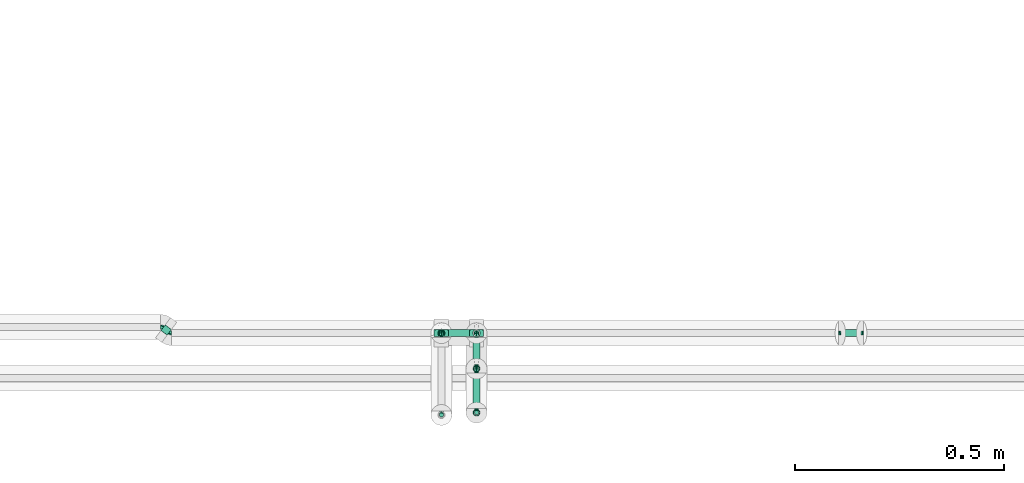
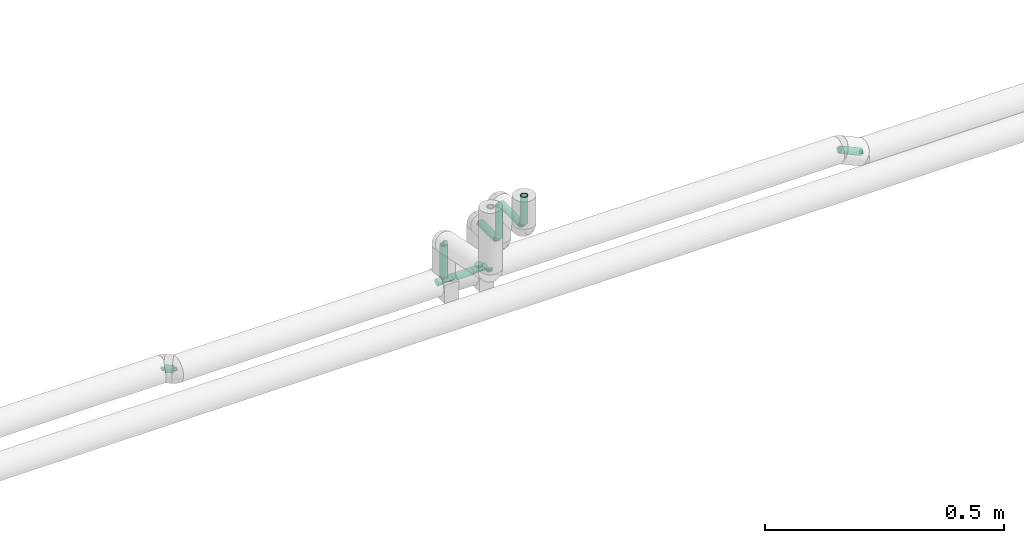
# One storey, part 101 of 156: 12 flow fittings, 8 flow segments.
"""IFC2X3 building model written with IfcOpenShell, lengths in millimetres."""

from ifc_helpers import new_model, entity, si_unit, converted_unit, derived_unit, direction, frame, origin_with_axes, origin_2d_with_axis, place, context, subcontext, project, spatial, hollow_circle, extrude, open_shell, surface_model, source, transform, mapped, type_object, element, save


model = new_model("IFC2X3")

# Units and contexts
model_context = context("Model", 3, precision=0.01, world=frame((0.0, 4.29681676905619e-09, 0.0)), true_north=direction((4.01073788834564e-13, 1.0)))
plan_context = context("Plan", 3, precision=0.01, world=frame((0.0, 4.29681676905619e-09, 0.0)), true_north=direction((4.01073788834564e-13, 1.0)))
body_context = subcontext(model_context, "Body", "Model", "MODEL_VIEW")
ifc_project = project(units=[converted_unit("PLANEANGLEUNIT", "DEGREE", entity("IfcPositiveLengthMeasure", 0.0174532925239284), si_unit("PLANEANGLEUNIT", "RADIAN"), dimensions=[0, 0, 0, 0, 0, 0, 0]), si_unit("AREAUNIT", "SQUARE_METRE"), si_unit("LENGTHUNIT", "METRE", prefix="MILLI"), si_unit("MASSUNIT", "GRAM", prefix="KILO"), si_unit("POWERUNIT", "WATT"), si_unit("PRESSUREUNIT", "PASCAL", prefix="KILO"), si_unit("FORCEUNIT", "NEWTON", prefix="KILO"), si_unit("ELECTRICVOLTAGEUNIT", "VOLT"), si_unit("ELECTRICCURRENTUNIT", "AMPERE"), si_unit("THERMODYNAMICTEMPERATUREUNIT", "DEGREE_CELSIUS"), si_unit("TIMEUNIT", "SECOND"), si_unit("VOLUMEUNIT", "CUBIC_METRE"), derived_unit("LINEARVELOCITYUNIT", [(si_unit("LENGTHUNIT", "METRE"), 1), (si_unit("TIMEUNIT", "SECOND"), -1)]), derived_unit("VOLUMETRICFLOWRATEUNIT", [(si_unit("VOLUMEUNIT", "CUBIC_METRE"), 1), (si_unit("TIMEUNIT", "SECOND"), -1)]), derived_unit("THERMALTRANSMITTANCEUNIT", [(si_unit("POWERUNIT", "WATT"), 1), (si_unit("THERMODYNAMICTEMPERATUREUNIT", "KELVIN"), -1), (si_unit("AREAUNIT", "SQUARE_METRE"), -1)]), derived_unit("SOUNDPRESSUREUNIT", [(si_unit("PRESSUREUNIT", "PASCAL"), 1)])], contexts=[model_context, plan_context])

# Site, building, storey
site_placement = place(None, frame((0.0, -4.29681676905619e-09, 0.0), z_axis=(0.0, 0.0, 1.0), x_axis=(1.0, 0.0, 0.0)))
site = spatial("IfcSite", under=ifc_project, at=site_placement, CompositionType="ELEMENT")
building_placement = place(site_placement, frame((0.0, 4.29681676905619e-09, 0.0), z_axis=(0.0, 0.0, 1.0), x_axis=(1.0, 0.0, 0.0)))
building = spatial("IfcBuilding", under=site, at=building_placement, Name="mc-building", CompositionType="ELEMENT")
storey_placement = place(building_placement, frame((0.0, 0.0, 205200.0), z_axis=(0.0, 0.0, 1.0), x_axis=(1.0, 0.0, 0.0)))
storey = spatial("IfcBuildingStorey", under=building, at=storey_placement, Name="Nivå D + 1,2 m", CompositionType="ELEMENT", Elevation=205200.0)

# Flow fittings
pipe_fitting_type_1 = type_object("IfcPipeFittingType", Name="magi_pipe_elbow_short_001", PredefinedType="BEND")
shared_shape_1 = source(origin_with_axes(), body_context, "Body", "SurfaceModel", [
    surface_model("IfcShellBasedSurfaceModel", [(-10.0, 0.0, -5.0), (-10.0, -3.53553, -3.53553), (-10.0, 1.2941, -4.82963), (-10.0, 2.5, -4.33013), (-10.0, 3.53553, -3.53553), (-10.0, 4.82963, -1.2941), (-10.0, 4.33013, -2.5), (-10.0, -5.0, 0.0), (-10.0, 4.33013, 2.5), (-10.0, -2.5, -4.33013), (-10.0, -1.2941, -4.82963), (-10.0, -4.82963, -1.2941), (-10.0, -4.33013, -2.5), (-10.0, 5.0, 0.0), (-10.0, 4.82963, 1.2941), (-10.0, -3.53553, 3.53553), (-10.0, 1.2941, 4.82963), (-10.0, 2.5, 4.33013), (-10.0, 3.53553, 3.53553), (-10.0, -1.2941, 4.82963), (-10.0, -4.82963, 1.2941), (-10.0, -4.33013, 2.5), (-10.0, -2.5, 4.33013), (-10.0, 0.0, 5.0), (-1.2941, 10.0, -4.82963), (3.53553, 10.0, -3.53553), (0.0, 10.0, -5.0), (-3.53553, 10.0, -3.53553), (-2.5, 10.0, -4.33013), (-4.33013, 10.0, -2.5), (-4.82963, 10.0, -1.2941), (5.0, 10.0, 0.0), (-4.33013, 10.0, 2.5), (1.2941, 10.0, -4.82963), (2.5, 10.0, -4.33013), (4.33013, 10.0, -2.5), (4.82963, 10.0, -1.2941), (-5.0, 10.0, 0.0), (-4.82963, 10.0, 1.2941), (3.53553, 10.0, 3.53553), (-2.5, 10.0, 4.33013), (-1.2941, 10.0, 4.82963), (-3.53553, 10.0, 3.53553), (4.33013, 10.0, 2.5), (4.82963, 10.0, 1.2941), (1.2941, 10.0, 4.82963), (2.5, 10.0, 4.33013), (0.0, 10.0, 5.0), (-5.49842, -3.13538, 0.0), (3.13538, 5.49842, 0.0), (0.6066, -0.6066, 0.0), (-1.45852, 1.45852, 4.54706), (-4.39636, 4.39636, 4.54899), (-6.46447, 6.46447, 0.0), (-4.39636, 4.39636, -4.54899), (-1.45852, 1.45852, -4.54706)], [open_shell([[[0, 1, 2]], [[3, 2, 4]], [[5, 6, 4]], [[4, 2, 7]], [[4, 7, 8]], [[9, 1, 10]], [[1, 0, 10]], [[11, 7, 12]], [[1, 12, 7]], [[1, 7, 2]], [[13, 5, 4]], [[8, 14, 13]], [[15, 8, 7]], [[8, 16, 17]], [[18, 8, 17]], [[16, 8, 19]], [[20, 21, 7]], [[7, 21, 15]], [[22, 19, 15]], [[19, 8, 15]], [[16, 19, 23]], [[8, 13, 4]], [[24, 25, 26]], [[27, 24, 28]], [[27, 29, 30]], [[31, 24, 27]], [[32, 31, 27]], [[33, 25, 34]], [[33, 26, 25]], [[35, 31, 36]], [[31, 35, 25]], [[24, 31, 25]], [[27, 30, 37]], [[37, 38, 32]], [[31, 32, 39]], [[40, 41, 32]], [[40, 32, 42]], [[39, 32, 41]], [[31, 43, 44]], [[39, 43, 31]], [[39, 45, 46]], [[39, 41, 45]], [[47, 45, 41]], [[27, 37, 32]], [[20, 7, 48]], [[21, 20, 48]], [[15, 21, 48]], [[43, 49, 44]], [[50, 49, 51]], [[22, 15, 51]], [[16, 52, 17]], [[16, 23, 51]], [[19, 51, 23]], [[22, 51, 19]], [[48, 51, 15]], [[41, 52, 51]], [[18, 52, 8]], [[52, 18, 17]], [[14, 8, 53]], [[53, 13, 14]], [[8, 52, 53]], [[16, 51, 52]], [[51, 48, 50]], [[46, 45, 51]], [[51, 39, 46]], [[51, 47, 41]], [[31, 44, 49]], [[51, 49, 39]], [[39, 49, 43]], [[32, 38, 53]], [[37, 53, 38]], [[40, 42, 52]], [[32, 52, 42]], [[32, 53, 52]], [[40, 52, 41]], [[47, 51, 45]], [[2, 3, 54]], [[2, 55, 0]], [[53, 6, 5]], [[24, 54, 28]], [[4, 6, 54]], [[34, 55, 33]], [[54, 6, 53]], [[4, 54, 3]], [[48, 7, 11]], [[12, 1, 48]], [[10, 55, 9]], [[48, 1, 55]], [[1, 9, 55]], [[10, 0, 55]], [[5, 13, 53]], [[53, 37, 30]], [[2, 54, 55]], [[53, 30, 29]], [[54, 29, 27]], [[36, 31, 49]], [[54, 24, 55]], [[12, 48, 11]], [[50, 48, 55]], [[54, 27, 28]], [[26, 55, 24]], [[55, 34, 25]], [[55, 25, 49]], [[35, 36, 49]], [[55, 49, 50]], [[49, 25, 35]], [[33, 55, 26]], [[54, 53, 29]]])]),
])
for number, where, z_axis, x_axis, name in (
    (1, (337009.60356, 459036.28638, 4351.22044), (1.0, 0.0, 0.0), (0.0, 0.0, 1.0), "magi_pipe_elbow_short_001"),
    (2, (337009.60356, 458951.28638, 4351.22044), (-1.0, 0.0, 0.0), (0.0, -1.0, 0.0), "magi_pipe_elbow_short_001"),
    (3, (337009.60356, 458951.28638, 4451.22044), (1.0, 0.0, 0.0), (0.0, 0.0, 1.0), "magi_pipe_elbow_short_001"),
    (4, (337009.60356, 458846.28638, 4451.22044), (-1.0, 0.0, 0.0), (0.0, -1.0, 0.0), "magi_pipe_elbow_short_001"),
):
    element("IfcFlowFitting", number, at=place(storey_placement, frame(where, z_axis=z_axis, x_axis=x_axis)), inside=storey, type_object=pipe_fitting_type_1, Name=name, context=body_context, shape_type="MappedRepresentation", body=[
        mapped(shared_shape_1, transform((0.0, 0.0, 0.0), scale=1.0)),
    ])
shared_shape_2 = source(origin_with_axes(), body_context, "Body", "SurfaceModel", [
    surface_model("IfcShellBasedSurfaceModel", [(-3.33333, 0.0, -5.0), (-3.33333, -3.53553, -3.53553), (-3.33333, 1.2941, -4.82963), (-3.33333, 2.5, -4.33013), (-3.33333, 3.53553, -3.53553), (-3.33333, 4.82963, -1.2941), (-3.33333, 4.33013, -2.5), (-3.33333, -5.0, 0.0), (-3.33333, 4.33013, 2.5), (-3.33333, -2.5, -4.33013), (-3.33333, -1.2941, -4.82963), (-3.33333, -4.82963, -1.2941), (-3.33333, -4.33013, -2.5), (-3.33333, 5.0, 0.0), (-3.33333, 4.82963, 1.2941), (-3.33333, 1.2941, 4.82963), (-3.33333, 2.5, 4.33013), (-3.33333, 3.53553, 3.53553), (-3.33333, -3.53553, 3.53553), (-3.33333, -4.82963, 1.2941), (-3.33333, -4.33013, 2.5), (-3.33333, -2.5, 4.33013), (-3.33333, -1.2941, 4.82963), (-3.33333, 0.0, 5.0), (1.89021, 3.03528, -4.82963), (4.16667, 0.0, -4.33013), (2.66667, 2.0, -5.0), (0.54535, 4.82843, -3.53553), (1.16667, 4.0, -4.33013), (-0.33333, 6.0, 0.0), (0.06859, 5.4641, -2.5), (5.56444, -1.8637, 1.2941), (5.66667, -2.0, 0.0), (4.78799, -0.82843, -3.53553), (3.44312, 0.96472, -4.82963), (5.26474, -1.4641, -2.5), (5.56444, -1.8637, -1.2941), (-0.23111, 5.8637, -1.2941), (-0.23111, 5.8637, 1.2941), (0.06859, 5.4641, 2.5), (1.16667, 4.0, 4.33013), (0.54535, 4.82843, 3.53553), (1.89021, 3.03528, 4.82963), (4.78799, -0.82843, 3.53553), (5.26474, -1.4641, 2.5), (4.16667, 0.0, 4.33013), (3.44312, 0.96472, 4.82963), (2.66667, 2.0, 5.0), (1.41008, -4.23025, 0.0), (-1.32016, -4.67331, 0.0), (-1.75219, 5.25658, 0.0), (3.86012, -2.94655, 0.0)], [open_shell([[[0, 1, 2]], [[3, 2, 4]], [[5, 6, 4]], [[4, 2, 7]], [[4, 7, 8]], [[9, 1, 10]], [[1, 0, 10]], [[11, 7, 12]], [[1, 12, 7]], [[1, 7, 2]], [[13, 5, 4]], [[8, 14, 13]], [[7, 15, 8]], [[8, 15, 16]], [[17, 8, 16]], [[18, 15, 7]], [[19, 20, 7]], [[7, 20, 18]], [[21, 22, 18]], [[22, 15, 18]], [[15, 22, 23]], [[8, 13, 4]], [[24, 25, 26]], [[27, 24, 28]], [[29, 27, 30]], [[31, 32, 24]], [[27, 31, 24]], [[25, 32, 33]], [[25, 34, 26]], [[35, 32, 36]], [[32, 35, 33]], [[24, 32, 25]], [[29, 30, 37]], [[29, 38, 39]], [[27, 39, 31]], [[31, 39, 40]], [[40, 39, 41]], [[31, 40, 42]], [[31, 43, 44]], [[43, 31, 45]], [[42, 46, 45]], [[45, 31, 42]], [[47, 46, 42]], [[39, 27, 29]], [[21, 18, 48]], [[20, 49, 18]], [[46, 22, 21]], [[42, 15, 23]], [[23, 22, 47]], [[19, 49, 20]], [[41, 17, 16]], [[39, 8, 17]], [[14, 8, 50]], [[50, 13, 14]], [[50, 8, 39]], [[42, 16, 15]], [[19, 7, 49]], [[48, 18, 49]], [[45, 46, 21]], [[45, 48, 43]], [[46, 47, 22]], [[51, 44, 43]], [[48, 51, 43]], [[31, 51, 32]], [[39, 38, 50]], [[29, 50, 38]], [[44, 51, 31]], [[42, 23, 47]], [[17, 41, 39]], [[41, 16, 40]], [[40, 16, 42]], [[21, 48, 45]], [[12, 49, 11]], [[24, 0, 2]], [[26, 10, 0]], [[30, 4, 6]], [[4, 27, 3]], [[5, 50, 6]], [[24, 2, 3]], [[49, 7, 11]], [[12, 1, 49]], [[48, 9, 25]], [[48, 49, 1]], [[48, 1, 9]], [[34, 9, 10]], [[5, 13, 50]], [[50, 29, 37]], [[50, 37, 30]], [[28, 3, 27]], [[3, 28, 24]], [[30, 27, 4]], [[24, 26, 0]], [[34, 25, 9]], [[36, 32, 51]], [[25, 33, 48]], [[35, 36, 51]], [[48, 33, 51]], [[51, 33, 35]], [[26, 34, 10]], [[30, 6, 50]]])]),
])
for number, where, z_axis, x_axis, name in (
    (5, (336277.5, 459036.28638, 4228.32044000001), (0.0, 0.0, 1.0), (0.8, -0.6, 0.0), "magi_pipe_elbow_short_001"),
    (6, (336257.5, 459051.28638, 4228.32044000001), (0.0, 0.0, 1.0), (-0.8, 0.6, 0.0), "magi_pipe_elbow_short_001"),
):
    element("IfcFlowFitting", number, at=place(storey_placement, frame(where, z_axis=z_axis, x_axis=x_axis)), inside=storey, type_object=pipe_fitting_type_1, Name=name, context=body_context, shape_type="MappedRepresentation", body=[
        mapped(shared_shape_2, transform((0.0, 0.0, 0.0), scale=1.0)),
    ])
shared_shape_3 = source(origin_with_axes(), body_context, "Body", "SurfaceModel", [
    surface_model("IfcShellBasedSurfaceModel", [(-2.16609, 0.0, -5.0), (-2.16609, -3.53553, -3.53553), (-2.16609, 1.2941, -4.82963), (-2.16609, 2.5, -4.33013), (-2.16609, 3.53553, -3.53553), (-2.16609, 4.82963, -1.2941), (-2.16609, 4.33013, -2.5), (-2.16609, -5.0, 0.0), (-2.16609, 4.33013, 2.5), (-2.16609, -2.5, -4.33013), (-2.16609, -1.2941, -4.82963), (-2.16609, -4.82963, -1.2941), (-2.16609, -4.33013, -2.5), (-2.16609, 5.0, 0.0), (-2.16609, 4.82963, 1.2941), (-2.16609, 1.2941, 4.82963), (-2.16609, 2.5, 4.33013), (-2.16609, 3.53553, 3.53553), (-2.16609, -3.53553, 3.53553), (-2.16609, -4.82963, 1.2941), (-2.16609, -4.33013, 2.5), (-2.16609, -2.5, 4.33013), (-2.16609, -1.2941, 4.82963), (-2.16609, 0.0, 5.0), (1.97194, 0.89634, -5.0), (3.97045, -3.5004, 1.2941), (3.43495, -2.3223, -3.53553), (0.50892, 4.11497, -3.53553), (1.43644, 2.07444, -4.82963), (0.93743, 3.17225, -4.33013), (0.18012, 4.83834, -2.5), (-0.02658, 5.29307, -1.2941), (3.43495, -2.3223, 3.53553), (2.50744, -0.28177, -4.82963), (3.00644, -1.37958, -4.33013), (3.76376, -3.04567, -2.5), (4.04095, -3.6555, 0.0), (3.97045, -3.5004, -1.2941), (-0.09708, 5.44817, 0.0), (-0.02658, 5.29307, 1.2941), (0.18012, 4.83834, 2.5), (0.93743, 3.17225, 4.33013), (1.43644, 2.07444, 4.82963), (0.50892, 4.11497, 3.53553), (3.76376, -3.04567, 2.5), (2.50744, -0.28177, 4.82963), (3.00644, -1.37958, 4.33013), (1.97194, 0.89634, 5.0), (1.0094, -4.66002, 0.0), (-0.81837, -4.85571, 0.0), (-1.10759, 5.11333, 0.0), (2.75432, -4.08183, 0.0)], [open_shell([[[0, 1, 2]], [[3, 2, 4]], [[5, 6, 4]], [[4, 2, 7]], [[4, 7, 8]], [[9, 1, 10]], [[1, 0, 10]], [[11, 7, 12]], [[1, 12, 7]], [[1, 7, 2]], [[13, 5, 4]], [[8, 14, 13]], [[7, 15, 8]], [[8, 15, 16]], [[17, 8, 16]], [[18, 15, 7]], [[19, 20, 7]], [[7, 20, 18]], [[21, 22, 18]], [[22, 15, 18]], [[15, 22, 23]], [[8, 13, 4]], [[24, 25, 26]], [[27, 28, 29]], [[27, 30, 31]], [[28, 27, 32]], [[24, 28, 25]], [[33, 26, 34]], [[33, 24, 26]], [[35, 36, 37]], [[36, 35, 26]], [[26, 25, 36]], [[32, 27, 31]], [[38, 39, 40]], [[40, 32, 31]], [[41, 42, 40]], [[41, 40, 43]], [[32, 40, 42]], [[25, 32, 44]], [[28, 32, 25]], [[32, 45, 46]], [[32, 42, 45]], [[47, 45, 42]], [[40, 31, 38]], [[21, 18, 48]], [[18, 20, 49]], [[45, 22, 21]], [[23, 42, 15]], [[23, 22, 47]], [[19, 49, 20]], [[43, 17, 16]], [[40, 8, 17]], [[14, 8, 50]], [[50, 13, 14]], [[50, 8, 40]], [[42, 16, 15]], [[19, 7, 49]], [[48, 18, 49]], [[46, 45, 21]], [[46, 48, 32]], [[45, 47, 22]], [[51, 44, 32]], [[48, 51, 32]], [[25, 51, 36]], [[40, 39, 50]], [[38, 50, 39]], [[44, 51, 25]], [[42, 23, 47]], [[40, 17, 43]], [[43, 16, 41]], [[42, 41, 16]], [[21, 48, 46]], [[12, 49, 11]], [[28, 0, 2]], [[24, 10, 0]], [[30, 4, 6]], [[4, 27, 3]], [[5, 50, 6]], [[28, 2, 3]], [[49, 7, 11]], [[12, 1, 49]], [[48, 9, 34]], [[48, 49, 1]], [[48, 1, 9]], [[33, 9, 10]], [[5, 13, 50]], [[50, 38, 31]], [[50, 31, 30]], [[29, 3, 27]], [[3, 29, 28]], [[37, 36, 51]], [[30, 27, 4]], [[28, 24, 0]], [[26, 48, 34]], [[9, 33, 34]], [[35, 37, 51]], [[48, 26, 51]], [[51, 26, 35]], [[10, 24, 33]], [[30, 6, 50]]])]),
])
for number, where, z_axis, x_axis, name in (
    (7, (337932.5, 459036.28638, 4203.32044000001), (0.0, 1.0, 0.0), (-1.0, 0.0, 0.0), "magi_pipe_elbow_short_001"),
    (8, (337877.5, 459036.28638, 4228.32044000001), (0.0, 1.0, 0.0), (1.0, 0.0, 0.0), "magi_pipe_elbow_short_001"),
):
    element("IfcFlowFitting", number, at=place(storey_placement, frame(where, z_axis=z_axis, x_axis=x_axis)), inside=storey, type_object=pipe_fitting_type_1, Name=name, context=body_context, shape_type="MappedRepresentation", body=[
        mapped(shared_shape_3, transform((0.0, 0.0, 0.0), scale=1.0)),
    ])
pipe_fitting_type_2 = type_object("IfcPipeFittingType", Name="magi_pipe_fe_tee_centric_90_001", PredefinedType="JUNCTION")
shared_shape_4 = source(origin_with_axes(), body_context, "Body", "SurfaceModel", [
    surface_model("IfcShellBasedSurfaceModel", [(-17.2, 0.0, -8.6), (-17.2, -8.6, 0.0), (-17.2, 2.22584, -8.30696), (-17.2, 4.3, -7.44782), (-17.2, 7.44782, -4.3), (-17.2, 8.30696, 2.22584), (-17.2, 6.08112, -6.08112), (-17.2, 8.6, 0.0), (-17.2, -6.08112, -6.08112), (-17.2, -7.44782, -4.3), (-17.2, -4.3, -7.44782), (-17.2, -2.22584, -8.30696), (-17.2, -8.30696, -2.22584), (-17.2, 8.30696, -2.22584), (-17.2, 4.3, 7.44782), (-17.2, 7.44782, 4.3), (-17.2, -4.3, 7.44782), (-17.2, 6.08112, 6.08112), (-17.2, 0.0, 8.6), (-17.2, 2.22584, 8.30696), (-17.2, -7.44782, 4.3), (-17.2, -6.08112, 6.08112), (-17.2, -8.30696, 2.22584), (-17.2, -2.22584, 8.30696), (17.2, 2.22584, -8.30696), (17.2, -4.3, -7.44782), (17.2, 0.0, -8.6), (17.2, 7.44782, -4.3), (17.2, 4.3, -7.44782), (17.2, -8.30696, 2.22584), (17.2, -8.6, 0.0), (17.2, 6.08112, -6.08112), (17.2, -7.44782, -4.3), (17.2, -6.08112, -6.08112), (17.2, -2.22584, -8.30696), (17.2, -8.30696, -2.22584), (17.2, 8.30696, -2.22584), (17.2, 8.6, 0.0), (17.2, 2.22584, 8.30696), (17.2, 8.30696, 2.22584), (17.2, 7.44782, 4.3), (17.2, 4.3, 7.44782), (17.2, 6.08112, 6.08112), (17.2, 0.0, 8.6), (17.2, -7.44782, 4.3), (17.2, -4.3, 7.44782), (17.2, -6.08112, 6.08112), (17.2, -2.22584, 8.30696), (8.6, -8.6, 0.0), (8.28805, -8.28805, 2.29527), (7.44335, -7.44335, 4.30773), (6.24056, -6.24056, 5.91738), (4.82014, -4.82014, 7.12224), (-8.6, -8.6, 0.0), (-8.28805, -8.28805, 2.29527), (-7.44335, -7.44335, 4.30773), (-6.24056, -6.24056, 5.91738), (-4.82014, -4.82014, 7.12224), (3.27153, -3.27153, 7.95343), (1.65141, -1.65141, 8.43995), (0.0, 0.0, 8.6), (-3.27153, -3.27153, 7.95343), (-1.65141, -1.65141, 8.43995), (0.0, 0.0, -8.6), (3.27153, -3.27153, -7.95343), (1.65141, -1.65141, -8.43995), (4.82014, -4.82014, -7.12224), (-1.65141, -1.65141, -8.43995), (-3.27153, -3.27153, -7.95343), (-4.82014, -4.82014, -7.12224), (6.24056, -6.24056, -5.91738), (7.44335, -7.44335, -4.30773), (8.28805, -8.28805, -2.29527), (-6.24056, -6.24056, -5.91738), (-7.44335, -7.44335, -4.30773), (-8.28805, -8.28805, -2.29527), (0.0, -12.9, -8.6), (2.22584, -12.9, -8.30696), (4.3, -12.9, -7.44782), (6.08112, -12.9, -6.08112), (7.44782, -12.9, -4.3), (8.30696, -12.9, -2.22584), (-6.08112, -12.9, -6.08112), (-8.30696, -12.9, 2.22584), (-2.22584, -12.9, -8.30696), (-4.3, -12.9, -7.44782), (-8.30696, -12.9, -2.22584), (-7.44782, -12.9, -4.3), (-8.6, -12.9, 0.0), (8.30696, -12.9, 2.22584), (2.22584, -12.9, 8.30696), (7.44782, -12.9, 4.3), (4.3, -12.9, 7.44782), (6.08112, -12.9, 6.08112), (0.0, -12.9, 8.6), (-6.08112, -12.9, 6.08112), (-7.44782, -12.9, 4.3), (-4.3, -12.9, 7.44782), (-2.22584, -12.9, 8.30696), (8.6, -12.9, 0.0)], [open_shell([[[0, 1, 2]], [[3, 2, 4]], [[2, 1, 5]], [[6, 3, 4]], [[2, 7, 4]], [[8, 9, 10]], [[11, 10, 9]], [[12, 1, 9]], [[0, 11, 9]], [[9, 1, 0]], [[7, 13, 4]], [[14, 5, 1]], [[15, 5, 14]], [[1, 16, 14]], [[17, 15, 14]], [[14, 18, 19]], [[1, 20, 21]], [[20, 1, 22]], [[16, 23, 14]], [[21, 16, 1]], [[18, 14, 23]], [[7, 2, 5]], [[24, 25, 26]], [[27, 24, 28]], [[29, 30, 24]], [[27, 28, 31]], [[27, 29, 24]], [[25, 32, 33]], [[25, 34, 26]], [[32, 30, 35]], [[32, 25, 24]], [[30, 32, 24]], [[27, 36, 37]], [[38, 37, 39]], [[38, 39, 40]], [[41, 38, 40]], [[41, 40, 42]], [[37, 38, 43]], [[44, 45, 46]], [[44, 29, 37]], [[45, 43, 47]], [[45, 44, 37]], [[43, 45, 37]], [[37, 29, 27]], [[30, 29, 48]], [[29, 49, 48]], [[49, 29, 44]], [[49, 44, 50]], [[46, 45, 51]], [[51, 50, 46]], [[52, 51, 45]], [[46, 50, 44]], [[53, 54, 22]], [[53, 22, 1]], [[22, 54, 20]], [[54, 55, 20]], [[56, 57, 16]], [[56, 21, 55]], [[21, 56, 16]], [[55, 21, 20]], [[16, 57, 23]], [[52, 45, 47]], [[43, 58, 52]], [[58, 38, 59]], [[38, 58, 43]], [[59, 38, 41]], [[43, 52, 47]], [[41, 42, 60]], [[60, 40, 39]], [[40, 60, 42]], [[41, 60, 59]], [[60, 39, 37]], [[19, 61, 62]], [[18, 23, 57]], [[19, 18, 61]], [[18, 57, 61]], [[62, 60, 14]], [[60, 5, 15]], [[15, 17, 60]], [[14, 19, 62]], [[60, 17, 14]], [[5, 60, 7]], [[60, 37, 7]], [[36, 63, 37]], [[31, 63, 27]], [[63, 36, 27]], [[63, 31, 28]], [[24, 26, 64]], [[24, 64, 65]], [[66, 64, 26]], [[66, 26, 34]], [[24, 65, 28]], [[63, 28, 65]], [[63, 3, 6]], [[13, 63, 4]], [[6, 4, 63]], [[63, 13, 7]], [[67, 2, 3]], [[2, 68, 0]], [[11, 0, 69]], [[67, 68, 2]], [[67, 3, 63]], [[7, 37, 63]], [[25, 33, 70]], [[70, 66, 25]], [[71, 70, 33]], [[33, 32, 71]], [[32, 35, 72]], [[35, 48, 72]], [[48, 35, 30]], [[32, 72, 71]], [[69, 10, 11]], [[10, 73, 8]], [[73, 10, 69]], [[8, 73, 74]], [[69, 0, 68]], [[75, 53, 12]], [[74, 75, 9]], [[75, 12, 9]], [[12, 53, 1]], [[74, 9, 8]], [[66, 34, 25]], [[76, 77, 78]], [[76, 78, 79]], [[79, 80, 81]], [[79, 81, 76]], [[82, 76, 83]], [[84, 82, 85]], [[84, 76, 82]], [[82, 86, 87]], [[86, 82, 88]], [[82, 83, 88]], [[83, 76, 81]], [[81, 89, 90]], [[90, 89, 91]], [[92, 90, 91]], [[92, 91, 93]], [[81, 90, 94]], [[83, 95, 96]], [[81, 95, 83]], [[97, 94, 98]], [[95, 81, 97]], [[97, 81, 94]], [[89, 81, 99]], [[83, 53, 88]], [[96, 54, 83]], [[55, 95, 97]], [[97, 98, 55]], [[96, 95, 54]], [[94, 56, 98]], [[54, 53, 83]], [[55, 54, 95]], [[51, 57, 56]], [[58, 62, 61]], [[61, 57, 52]], [[55, 98, 56]], [[94, 51, 56]], [[92, 50, 90]], [[93, 50, 92]], [[49, 91, 89]], [[99, 48, 89]], [[93, 91, 49]], [[49, 89, 48]], [[60, 62, 59]], [[59, 62, 58]], [[49, 50, 93]], [[52, 57, 51]], [[50, 51, 90]], [[61, 52, 58]], [[51, 94, 90]], [[81, 48, 99]], [[80, 72, 81]], [[71, 79, 78]], [[78, 77, 71]], [[80, 79, 72]], [[76, 70, 77]], [[72, 48, 81]], [[71, 72, 79]], [[73, 66, 70]], [[68, 65, 64]], [[64, 66, 69]], [[71, 77, 70]], [[76, 73, 70]], [[85, 74, 84]], [[82, 74, 85]], [[75, 87, 86]], [[88, 53, 86]], [[82, 87, 75]], [[75, 86, 53]], [[63, 65, 67]], [[67, 65, 68]], [[75, 74, 82]], [[69, 66, 73]], [[74, 73, 84]], [[64, 69, 68]], [[73, 76, 84]]])]),
])
for number, where, z_axis, x_axis, name in (
    (9, (336925.62218, 459036.28638, 4228.32044000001), (0.0, -1.0, 0.0), (-1.0, 0.0, 0.0), "magi_pipe_fe_tee_centric_90_001"),
    (10, (337009.60356, 459036.28638, 4228.32044000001), (0.0, -1.0, 0.0), (-1.0, 0.0, 0.0), "magi_pipe_fe_tee_centric_90_001"),
):
    element("IfcFlowFitting", number, at=place(storey_placement, frame(where, z_axis=z_axis, x_axis=x_axis)), inside=storey, type_object=pipe_fitting_type_2, Name=name, context=body_context, shape_type="MappedRepresentation", body=[
        mapped(shared_shape_4, transform((0.0, 0.0, 0.0), scale=1.0)),
    ])
shared_shape_5 = source(origin_with_axes(), body_context, "Body", "SurfaceModel", [
    surface_model("IfcShellBasedSurfaceModel", [(-8.09784, 0.0, -5.0), (-8.09784, -3.53553, -3.53553), (-8.09784, 1.2941, -4.82963), (-8.09784, 2.5, -4.33013), (-8.09784, 3.53553, -3.53553), (-8.09784, 4.82963, -1.2941), (-8.09784, 4.33013, -2.5), (-8.09784, -5.0, 0.0), (-8.09784, 4.33013, 2.5), (-8.09784, -2.5, -4.33013), (-8.09784, -1.2941, -4.82963), (-8.09784, -4.82963, -1.2941), (-8.09784, -4.33013, -2.5), (-8.09784, 5.0, 0.0), (-8.09784, 4.82963, 1.2941), (-8.09784, 1.2941, 4.82963), (-8.09784, 2.5, 4.33013), (-8.09784, 3.53553, 3.53553), (-8.09784, -3.53553, 3.53553), (-8.09784, -4.82963, 1.2941), (-8.09784, -4.33013, 2.5), (-8.09784, -2.5, 4.33013), (-8.09784, -1.2941, 4.82963), (-8.09784, 0.0, 5.0), (0.41782, 8.18994, -4.82963), (5.14191, 7.1858, -3.53553), (1.68364, 7.92088, -5.0), (-2.55187, 8.82117, -2.5), (-0.76173, 8.44066, -4.33013), (-1.77464, 8.65596, -3.53553), (-3.2071, 8.96044, 0.0), (6.57437, 6.88132, 0.0), (2.94945, 7.65183, -4.82963), (4.129, 7.4011, -4.33013), (5.91914, 7.0206, -2.5), (6.40773, 6.91675, -1.2941), (-3.04045, 8.92502, -1.2941), (-3.04045, 8.92502, 1.2941), (-2.55187, 8.82117, 2.5), (5.14191, 7.1858, 3.53553), (-0.76173, 8.44066, 4.33013), (-1.77464, 8.65596, 3.53553), (0.41782, 8.18994, 4.82963), (6.40773, 6.91675, 1.2941), (5.91914, 7.0206, 2.5), (2.94945, 7.65183, 4.82963), (4.129, 7.4011, 4.33013), (1.68364, 7.92088, 5.0), (-3.4751, -3.363, 0.0), (4.01202, 2.69995, 0.0), (1.34197, -1.65719, 0.0), (-0.71164, 0.8788, 4.68866), (-4.95124, 6.11427, 0.0), (-0.71164, 0.8788, -4.68866)], [open_shell([[[0, 1, 2]], [[3, 2, 4]], [[5, 6, 4]], [[4, 2, 7]], [[4, 7, 8]], [[9, 1, 10]], [[1, 0, 10]], [[11, 7, 12]], [[1, 12, 7]], [[1, 7, 2]], [[13, 5, 4]], [[8, 14, 13]], [[7, 15, 8]], [[8, 15, 16]], [[17, 8, 16]], [[18, 15, 7]], [[19, 20, 7]], [[7, 20, 18]], [[21, 22, 18]], [[22, 15, 18]], [[15, 22, 23]], [[8, 13, 4]], [[24, 25, 26]], [[27, 24, 28]], [[25, 24, 27]], [[27, 28, 29]], [[30, 31, 27]], [[32, 25, 33]], [[32, 26, 25]], [[34, 31, 35]], [[31, 34, 25]], [[27, 31, 25]], [[27, 36, 30]], [[30, 37, 38]], [[39, 30, 38]], [[39, 38, 40]], [[40, 38, 41]], [[39, 40, 42]], [[43, 39, 44]], [[31, 39, 43]], [[39, 45, 46]], [[39, 42, 45]], [[47, 45, 42]], [[39, 31, 30]], [[19, 7, 48]], [[20, 19, 48]], [[18, 20, 48]], [[44, 49, 43]], [[50, 49, 51]], [[21, 18, 51]], [[51, 15, 23]], [[23, 22, 51]], [[21, 51, 22]], [[48, 51, 18]], [[8, 17, 38]], [[16, 41, 17]], [[14, 8, 52]], [[52, 13, 14]], [[52, 8, 38]], [[16, 15, 51]], [[51, 48, 50]], [[46, 45, 51]], [[51, 39, 46]], [[51, 47, 42]], [[31, 43, 49]], [[51, 49, 39]], [[39, 49, 44]], [[38, 37, 52]], [[30, 52, 37]], [[51, 40, 16]], [[16, 40, 41]], [[38, 17, 41]], [[42, 40, 51]], [[47, 51, 45]], [[53, 2, 3]], [[2, 53, 0]], [[52, 6, 5]], [[50, 48, 53]], [[29, 3, 4]], [[12, 48, 11]], [[4, 6, 29]], [[53, 3, 28]], [[48, 7, 11]], [[12, 1, 48]], [[10, 53, 9]], [[48, 1, 53]], [[1, 9, 53]], [[10, 0, 53]], [[5, 13, 52]], [[52, 30, 36]], [[52, 36, 27]], [[29, 6, 27]], [[35, 31, 49]], [[53, 28, 24]], [[33, 53, 32]], [[28, 3, 29]], [[26, 53, 24]], [[53, 33, 25]], [[53, 25, 49]], [[34, 35, 49]], [[53, 49, 50]], [[49, 25, 34]], [[32, 53, 26]], [[27, 6, 52]]])]),
])
for number, where, z_axis, x_axis, name in (
    (11, (336925.62218, 459036.28638, 4328.32044000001), (1.0, 0.0, 0.0), (0.0, 0.0, 1.0), "magi_pipe_elbow_short_001"),
    (12, (336925.62218, 458840.65685, 4369.90278), (-1.0, 0.0, 0.0), (0.0, -0.978147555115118, 0.207911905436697), "magi_pipe_elbow_short_001"),
):
    element("IfcFlowFitting", number, at=place(storey_placement, frame(where, z_axis=z_axis, x_axis=x_axis)), inside=storey, type_object=pipe_fitting_type_1, Name=name, context=body_context, shape_type="MappedRepresentation", body=[
        mapped(shared_shape_5, transform((0.0, 0.0, 0.0), scale=1.0)),
    ])

# Flow segments
pipe_segment_type = type_object("IfcPipeSegmentType", Name="Stålrør normaltykke", PredefinedType="RIGIDSEGMENT")
shared_shape_6 = source(origin_with_axes(), body_context, "Body", "SweptSolid", [
    extrude(hollow_circle(Radius=8.6, WallThickness=2.0, at=origin_2d_with_axis()), frame((0.0, 0.0, 0.0), z_axis=(1.0, 0.0, 0.0), x_axis=(0.0, 1.0, 0.0)), (0.0, 0.0, 1.0), 80.0),
])
flow_segment_1_placement = place(storey_placement, frame((337009.60356, 458951.28638, 4361.22044), z_axis=(-1.0, 0.0, 0.0), x_axis=(0.0, 0.0, 1.0)))
element("IfcFlowSegment", 13, at=flow_segment_1_placement, inside=storey, type_object=pipe_segment_type, Name="Stålrør normaltykke", context=body_context, shape_type="MappedRepresentation", body=[
    mapped(shared_shape_6, transform((0.0, 0.0, 0.0), scale=1.0)),
])
shared_shape_7 = source(origin_with_axes(), body_context, "Body", "SweptSolid", [
    extrude(hollow_circle(Radius=8.6, WallThickness=2.0, at=origin_2d_with_axis()), frame((0.0, 0.0, 0.0), z_axis=(1.0, 0.0, 0.0), x_axis=(0.0, 1.0, 0.0)), (0.0, 0.0, 1.0), 18.3),
])
flow_segment_2_placement = place(storey_placement, frame((336274.83333, 459038.28638, 4228.32044000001), z_axis=(0.0, 0.0, 1.0), x_axis=(-0.8, 0.6, 0.0)))
element("IfcFlowSegment", 14, at=flow_segment_2_placement, inside=storey, type_object=pipe_segment_type, Name="Stålrør normaltykke", context=body_context, shape_type="MappedRepresentation", body=[
    mapped(shared_shape_7, transform((0.0, 0.0, 0.0), scale=1.0)),
])
shared_shape_8 = source(origin_with_axes(), body_context, "Body", "SweptSolid", [
    extrude(hollow_circle(Radius=8.6, WallThickness=2.0, at=origin_2d_with_axis()), frame((0.0, 0.0, 0.0), z_axis=(1.0, 0.0, 0.0), x_axis=(0.0, 1.0, 0.0)), (0.0, 0.0, 1.0), 56.1),
])
flow_segment_3_placement = place(storey_placement, frame((337930.52806, 459036.28638, 4204.21677999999), z_axis=(0.413803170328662, 0.0, 0.910366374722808), x_axis=(-0.910366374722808, 0.0, 0.413803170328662)))
element("IfcFlowSegment", 15, at=flow_segment_3_placement, inside=storey, type_object=pipe_segment_type, Name="Stålrør normaltykke", context=body_context, shape_type="MappedRepresentation", body=[
    mapped(shared_shape_8, transform((0.0, 0.0, 0.0), scale=1.0)),
])
shared_shape_9 = source(origin_with_axes(), body_context, "Body", "SweptSolid", [
    extrude(hollow_circle(Radius=8.6, WallThickness=2.0, at=origin_2d_with_axis()), frame((0.0, 0.0, 0.0), z_axis=(1.0, 0.0, 0.0), x_axis=(0.0, 1.0, 0.0)), (0.0, 0.0, 1.0), 79.0),
])
flow_segment_4_placement = place(storey_placement, frame((336925.62218, 459036.28638, 4241.22044), z_axis=(-1.0, 0.0, 0.0), x_axis=(0.0, 0.0, 1.0)))
element("IfcFlowSegment", 16, at=flow_segment_4_placement, inside=storey, type_object=pipe_segment_type, Name="Stålrør normaltykke", context=body_context, shape_type="MappedRepresentation", body=[
    mapped(shared_shape_9, transform((0.0, 0.0, 0.0), scale=1.0)),
])
shared_shape_10 = source(origin_with_axes(), body_context, "Body", "SweptSolid", [
    extrude(hollow_circle(Radius=8.6, WallThickness=2.0, at=origin_2d_with_axis()), frame((0.0, 0.0, 0.0), z_axis=(1.0, 0.0, 0.0), x_axis=(0.0, 1.0, 0.0)), (0.0, 0.0, 1.0), 49.6),
])
flow_segment_5_placement = place(storey_placement, frame((336942.82218, 459036.28638, 4228.32044000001), z_axis=(0.0, 0.0, 1.0), x_axis=(1.0, 0.0, 0.0)))
element("IfcFlowSegment", 17, at=flow_segment_5_placement, inside=storey, type_object=pipe_segment_type, Name="Stålrør normaltykke", context=body_context, shape_type="MappedRepresentation", body=[
    mapped(shared_shape_10, transform((0.0, 0.0, 0.0), scale=1.0)),
])
shared_shape_11 = source(origin_with_axes(), body_context, "Body", "SweptSolid", [
    extrude(hollow_circle(Radius=8.6, WallThickness=2.0, at=origin_2d_with_axis()), frame((0.0, 0.0, 0.0), z_axis=(1.0, 0.0, 0.0), x_axis=(0.0, 1.0, 0.0)), (0.0, 0.0, 1.0), 65.0),
])
flow_segment_6_placement = place(storey_placement, frame((337009.60356, 459026.28638, 4351.22044), z_axis=(0.0, 0.0, 1.0), x_axis=(0.0, -1.0, 0.0)))
element("IfcFlowSegment", 18, at=flow_segment_6_placement, inside=storey, type_object=pipe_segment_type, Name="Stålrør normaltykke", context=body_context, shape_type="MappedRepresentation", body=[
    mapped(shared_shape_11, transform((0.0, 0.0, 0.0), scale=1.0)),
])
shared_shape_12 = source(origin_with_axes(), body_context, "Body", "SweptSolid", [
    extrude(hollow_circle(Radius=8.6, WallThickness=2.0, at=origin_2d_with_axis()), frame((0.0, 0.0, 0.0), z_axis=(1.0, 0.0, 0.0), x_axis=(0.0, 1.0, 0.0)), (0.0, 0.0, 1.0), 85.0),
])
flow_segment_7_placement = place(storey_placement, frame((337009.60356, 458941.28638, 4451.22044), z_axis=(0.0, 0.0, 1.0), x_axis=(0.0, -1.0, 0.0)))
element("IfcFlowSegment", 19, at=flow_segment_7_placement, inside=storey, type_object=pipe_segment_type, Name="Stålrør normaltykke", context=body_context, shape_type="MappedRepresentation", body=[
    mapped(shared_shape_12, transform((0.0, 0.0, 0.0), scale=1.0)),
])
shared_shape_13 = source(origin_with_axes(), body_context, "Body", "SweptSolid", [
    extrude(hollow_circle(Radius=8.6, WallThickness=2.0, at=origin_2d_with_axis()), frame((0.0, 0.0, 0.0), z_axis=(1.0, 0.0, 0.0), x_axis=(0.0, 1.0, 0.0)), (0.0, 0.0, 1.0), 70.0),
])
flow_segment_8_placement = place(storey_placement, frame((337009.60356, 458846.28638, 4461.22044), z_axis=(-1.0, 0.0, 0.0), x_axis=(0.0, 0.0, 1.0)))
element("IfcFlowSegment", 20, at=flow_segment_8_placement, inside=storey, type_object=pipe_segment_type, Name="Stålrør normaltykke", context=body_context, shape_type="MappedRepresentation", body=[
    mapped(shared_shape_13, transform((0.0, 0.0, 0.0), scale=1.0)),
])

save(model, "model.ifc")
